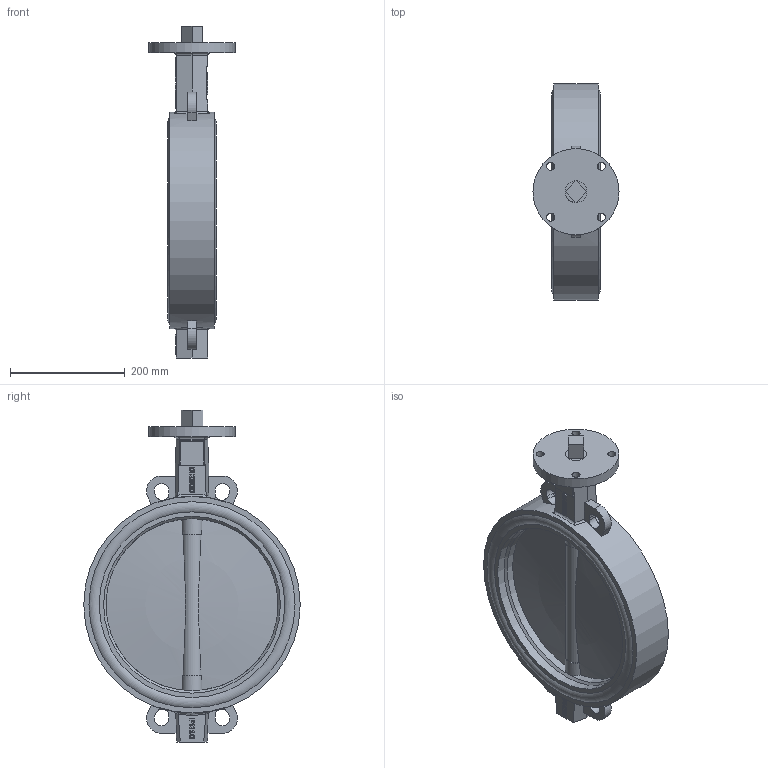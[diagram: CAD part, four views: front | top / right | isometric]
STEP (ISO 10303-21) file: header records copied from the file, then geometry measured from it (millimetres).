
FILE_DESCRIPTION(('STEP AP242'), '1');
FILE_NAME('Ïîâîðîòíûé çàòâîð ïîä ýëåêòðîïðèâîä', '', ('UNSPECIFIED'), ('UNSPECIFIED'), 'C3D Converter', 'C3D Toolkit', '');
FILE_SCHEMA(('AP242_MANAGED_MODEL_BASED_3D_ENGINEERING_MIM_LF { 1 0 10303 442 1 1 4 }'));
Length unit declared in the file: millimetre
Products named in the file (6): П
Assembly tree (6 placements, depth 2):
  (unnamed)
    (unnamed)
    П  x2
    (unnamed)
    (unnamed)
    (unnamed)
Bounding box: 150 x 377 x 578 mm (x, y, z)
Volume: 5455730.2 mm3; surface area: 879054.2 mm2
Topology: 6 solids, 6 shells, 427 faces, 1140 edges, 750 vertices
Faces by surface type: plane 191, extrusion 157, cylinder 57, bspline 8, torus 6, cone 4, sphere 4
Full cylindrical faces by diameter (mm): 11.421 x1, 14 x4, 27 x6, 37.05 x4, 38.184 x5, 150 x1, 300 x1, 307.8 x2, 323.4 x2, 341.1 x4, 358.8 x4, 377 x1
Entity records: 18528 total; most frequent: CARTESIAN_POINT 6378, ORIENTED_EDGE 2180, DIRECTION 1526, EDGE_CURVE 1090, VERTEX_POINT 745, VECTOR 710, LINE 553, B_SPLINE_CURVE_WITH_KNOTS 524
